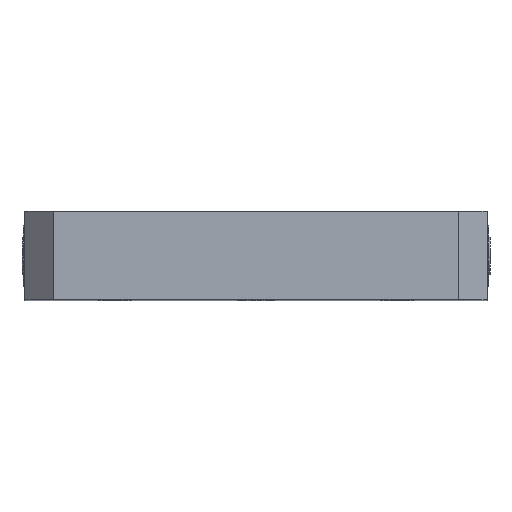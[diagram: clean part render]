
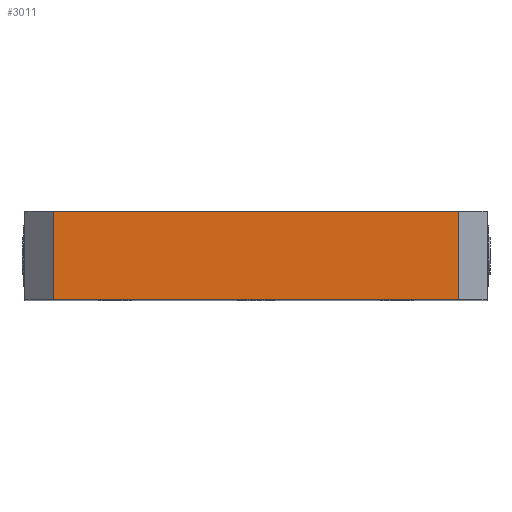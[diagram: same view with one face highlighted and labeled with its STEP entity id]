
A CAD part, top view. The second image highlights one B-rep face of the part: STEP entity #3011.
In plain terms, the highlighted planar face has unit normal (0, 0, 1).
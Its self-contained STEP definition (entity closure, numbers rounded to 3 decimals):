
#293 = ORIENTED_EDGE ( 'NONE', *, *, #5218, .T. ) ;
#400 = VERTEX_POINT ( 'NONE', #6486 ) ;
#553 = CARTESIAN_POINT ( 'NONE',  ( -78., 30., 95. ) ) ;
#730 = LINE ( 'NONE', #4481, #2875 ) ;
#906 = PLANE ( 'NONE',  #5911 ) ;
#1170 = VERTEX_POINT ( 'NONE', #4058 ) ;
#1348 = VERTEX_POINT ( 'NONE', #4300 ) ;
#1378 = ORIENTED_EDGE ( 'NONE', *, *, #4261, .T. ) ;
#1543 = LINE ( 'NONE', #4605, #2882 ) ;
#1956 = DIRECTION ( 'NONE',  ( 0., 0., -1. ) ) ;
#2010 = EDGE_LOOP ( 'NONE', ( #5101, #293, #1378, #6110 ) ) ;
#2451 = DIRECTION ( 'NONE',  ( 0., -1., 0. ) ) ;
#2625 = EDGE_CURVE ( 'NONE', #1170, #4949, #5644, .T. ) ;
#2875 = VECTOR ( 'NONE', #2451, 1000. ) ;
#2882 = VECTOR ( 'NONE', #3008, 1000. ) ;
#3008 = DIRECTION ( 'NONE',  ( 1., 0., 0. ) ) ;
#3011 = ADVANCED_FACE ( 'NONE', ( #5384 ), #906, .F. ) ;
#4058 = CARTESIAN_POINT ( 'NONE',  ( -68.475, 30., 95. ) ) ;
#4261 = EDGE_CURVE ( 'NONE', #400, #1348, #1543, .T. ) ;
#4300 = CARTESIAN_POINT ( 'NONE',  ( 68.475, 0., 95. ) ) ;
#4442 = VECTOR ( 'NONE', #4803, 1000. ) ;
#4481 = CARTESIAN_POINT ( 'NONE',  ( -68.475, 30., 95. ) ) ;
#4605 = CARTESIAN_POINT ( 'NONE',  ( -78., 0., 95. ) ) ;
#4713 = DIRECTION ( 'NONE',  ( 1., 0., 0. ) ) ;
#4803 = DIRECTION ( 'NONE',  ( 0., 1., 0. ) ) ;
#4949 = VERTEX_POINT ( 'NONE', #5314 ) ;
#5101 = ORIENTED_EDGE ( 'NONE', *, *, #2625, .F. ) ;
#5199 = CARTESIAN_POINT ( 'NONE',  ( 68.475, 30., 95. ) ) ;
#5218 = EDGE_CURVE ( 'NONE', #1170, #400, #730, .T. ) ;
#5314 = CARTESIAN_POINT ( 'NONE',  ( 68.475, 30., 95. ) ) ;
#5384 = FACE_OUTER_BOUND ( 'NONE', #2010, .T. ) ;
#5510 = LINE ( 'NONE', #5199, #4442 ) ;
#5554 = DIRECTION ( 'NONE',  ( -1., 0., 0. ) ) ;
#5644 = LINE ( 'NONE', #553, #6367 ) ;
#5911 = AXIS2_PLACEMENT_3D ( 'NONE', #6613, #1956, #5554 ) ;
#6110 = ORIENTED_EDGE ( 'NONE', *, *, #6118, .T. ) ;
#6118 = EDGE_CURVE ( 'NONE', #1348, #4949, #5510, .T. ) ;
#6367 = VECTOR ( 'NONE', #4713, 1000. ) ;
#6486 = CARTESIAN_POINT ( 'NONE',  ( -68.475, 0., 95. ) ) ;
#6613 = CARTESIAN_POINT ( 'NONE',  ( -78., 30., 95. ) ) ;
